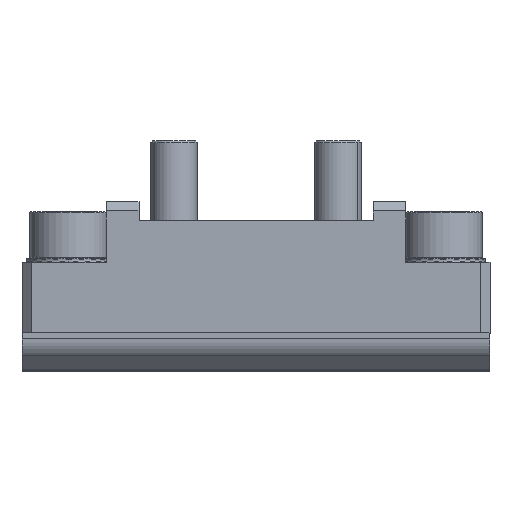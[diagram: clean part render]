
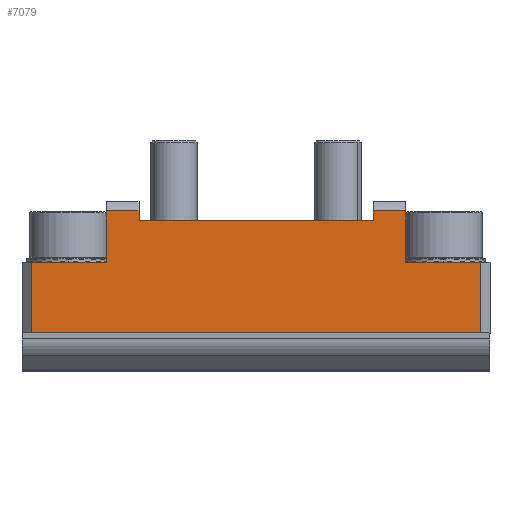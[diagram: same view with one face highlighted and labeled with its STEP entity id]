
A CAD part, top view. The second image highlights one B-rep face of the part: STEP entity #7079.
In plain terms, the highlighted planar face has unit normal (0, 0, 1).
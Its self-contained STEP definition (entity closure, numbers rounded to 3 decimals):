
#36 = DIRECTION ( 'NONE',  ( -1., 0., 0. ) ) ;
#64 = VERTEX_POINT ( 'NONE', #6094 ) ;
#97 = LINE ( 'NONE', #8309, #9051 ) ;
#229 = VERTEX_POINT ( 'NONE', #3022 ) ;
#303 = VECTOR ( 'NONE', #9408, 1000. ) ;
#398 = CARTESIAN_POINT ( 'NONE',  ( 16., 13., 27.5 ) ) ;
#475 = DIRECTION ( 'NONE',  ( 0., -1., 0. ) ) ;
#804 = VERTEX_POINT ( 'NONE', #3929 ) ;
#880 = VECTOR ( 'NONE', #4453, 1000. ) ;
#1556 = ORIENTED_EDGE ( 'NONE', *, *, #10417, .T. ) ;
#1680 = CARTESIAN_POINT ( 'NONE',  ( 24., 0., 27.5 ) ) ;
#1688 = CARTESIAN_POINT ( 'NONE',  ( -25., 13., 27.5 ) ) ;
#1712 = DIRECTION ( 'NONE',  ( 0., 1., 0. ) ) ;
#1971 = VECTOR ( 'NONE', #5743, 1000. ) ;
#1990 = VERTEX_POINT ( 'NONE', #8188 ) ;
#2147 = LINE ( 'NONE', #7790, #4460 ) ;
#2432 = EDGE_CURVE ( 'NONE', #8175, #4464, #2147, .T. ) ;
#2502 = VERTEX_POINT ( 'NONE', #10494 ) ;
#2598 = LINE ( 'NONE', #4221, #303 ) ;
#2604 = CARTESIAN_POINT ( 'NONE',  ( -24., 0., 27.5 ) ) ;
#2625 = LINE ( 'NONE', #3566, #880 ) ;
#2731 = EDGE_CURVE ( 'NONE', #7617, #2502, #97, .T. ) ;
#2790 = VECTOR ( 'NONE', #10947, 1000. ) ;
#2920 = ORIENTED_EDGE ( 'NONE', *, *, #7767, .T. ) ;
#2990 = CARTESIAN_POINT ( 'NONE',  ( -25., 0., 27.5 ) ) ;
#3022 = CARTESIAN_POINT ( 'NONE',  ( 12.5, 13., 27.5 ) ) ;
#3050 = LINE ( 'NONE', #4013, #2790 ) ;
#3078 = ORIENTED_EDGE ( 'NONE', *, *, #8546, .F. ) ;
#3177 = ORIENTED_EDGE ( 'NONE', *, *, #6664, .F. ) ;
#3252 = VERTEX_POINT ( 'NONE', #398 ) ;
#3487 = CARTESIAN_POINT ( 'NONE',  ( 24., 7.5, 27.5 ) ) ;
#3566 = CARTESIAN_POINT ( 'NONE',  ( -25., 0., 27.5 ) ) ;
#3682 = CARTESIAN_POINT ( 'NONE',  ( 12.5, 14., 27.5 ) ) ;
#3739 = VECTOR ( 'NONE', #10846, 1000. ) ;
#3855 = PLANE ( 'NONE',  #9130 ) ;
#3870 = LINE ( 'NONE', #8995, #10530 ) ;
#3929 = CARTESIAN_POINT ( 'NONE',  ( 12.5, 12., 27.5 ) ) ;
#3992 = LINE ( 'NONE', #3682, #6880 ) ;
#4013 = CARTESIAN_POINT ( 'NONE',  ( -12.5, 12., 27.5 ) ) ;
#4221 = CARTESIAN_POINT ( 'NONE',  ( -25., 7.5, 27.5 ) ) ;
#4362 = CARTESIAN_POINT ( 'NONE',  ( 12.5, 12., 27.5 ) ) ;
#4453 = DIRECTION ( 'NONE',  ( 1., 0., 0. ) ) ;
#4460 = VECTOR ( 'NONE', #1712, 1000. ) ;
#4464 = VERTEX_POINT ( 'NONE', #3487 ) ;
#4466 = EDGE_CURVE ( 'NONE', #804, #1990, #7694, .T. ) ;
#4577 = EDGE_CURVE ( 'NONE', #229, #804, #3992, .T. ) ;
#4640 = DIRECTION ( 'NONE',  ( 0., -1., 0. ) ) ;
#4835 = DIRECTION ( 'NONE',  ( 0., 1., 0. ) ) ;
#4876 = CARTESIAN_POINT ( 'NONE',  ( -25., 13., 27.5 ) ) ;
#4983 = CARTESIAN_POINT ( 'NONE',  ( 16., 7.5, 27.5 ) ) ;
#5509 = ORIENTED_EDGE ( 'NONE', *, *, #4577, .T. ) ;
#5657 = ORIENTED_EDGE ( 'NONE', *, *, #2432, .T. ) ;
#5743 = DIRECTION ( 'NONE',  ( -1., 0., 0. ) ) ;
#6003 = DIRECTION ( 'NONE',  ( -1., 0., 0. ) ) ;
#6055 = LINE ( 'NONE', #9918, #3739 ) ;
#6094 = CARTESIAN_POINT ( 'NONE',  ( -12.5, 13., 27.5 ) ) ;
#6664 = EDGE_CURVE ( 'NONE', #8637, #4464, #6055, .T. ) ;
#6736 = LINE ( 'NONE', #1688, #8762 ) ;
#6880 = VECTOR ( 'NONE', #8881, 1000. ) ;
#6892 = EDGE_CURVE ( 'NONE', #64, #2502, #6736, .T. ) ;
#7079 = ADVANCED_FACE ( 'NONE', ( #11176 ), #3855, .T. ) ;
#7154 = ORIENTED_EDGE ( 'NONE', *, *, #11012, .T. ) ;
#7617 = VERTEX_POINT ( 'NONE', #10610 ) ;
#7694 = LINE ( 'NONE', #4362, #9695 ) ;
#7767 = EDGE_CURVE ( 'NONE', #8238, #8175, #2625, .T. ) ;
#7790 = CARTESIAN_POINT ( 'NONE',  ( 24., 0., 27.5 ) ) ;
#8124 = ORIENTED_EDGE ( 'NONE', *, *, #6892, .T. ) ;
#8175 = VERTEX_POINT ( 'NONE', #1680 ) ;
#8188 = CARTESIAN_POINT ( 'NONE',  ( -12.5, 12., 27.5 ) ) ;
#8238 = VERTEX_POINT ( 'NONE', #2604 ) ;
#8309 = CARTESIAN_POINT ( 'NONE',  ( -16., 7.5, 27.5 ) ) ;
#8310 = CARTESIAN_POINT ( 'NONE',  ( 16., 14., 27.5 ) ) ;
#8396 = ORIENTED_EDGE ( 'NONE', *, *, #4466, .T. ) ;
#8546 = EDGE_CURVE ( 'NONE', #3252, #8637, #8863, .T. ) ;
#8637 = VERTEX_POINT ( 'NONE', #4983 ) ;
#8700 = EDGE_CURVE ( 'NONE', #11208, #7617, #2598, .T. ) ;
#8762 = VECTOR ( 'NONE', #6003, 1000. ) ;
#8863 = LINE ( 'NONE', #8310, #10875 ) ;
#8881 = DIRECTION ( 'NONE',  ( 0., -1., 0. ) ) ;
#8995 = CARTESIAN_POINT ( 'NONE',  ( -24., 0., 27.5 ) ) ;
#9025 = DIRECTION ( 'NONE',  ( 0., 0., 1. ) ) ;
#9051 = VECTOR ( 'NONE', #4835, 1000. ) ;
#9130 = AXIS2_PLACEMENT_3D ( 'NONE', #2990, #9025, #9906 ) ;
#9408 = DIRECTION ( 'NONE',  ( 1., 0., 0. ) ) ;
#9496 = CARTESIAN_POINT ( 'NONE',  ( -24., 7.5, 27.5 ) ) ;
#9695 = VECTOR ( 'NONE', #36, 1000. ) ;
#9906 = DIRECTION ( 'NONE',  ( 1., 0., 0. ) ) ;
#9918 = CARTESIAN_POINT ( 'NONE',  ( 16., 7.5, 27.5 ) ) ;
#9946 = EDGE_LOOP ( 'NONE', ( #2920, #5657, #3177, #3078, #7154, #5509, #8396, #1556, #8124, #10114, #9974, #11096 ) ) ;
#9974 = ORIENTED_EDGE ( 'NONE', *, *, #8700, .F. ) ;
#10114 = ORIENTED_EDGE ( 'NONE', *, *, #2731, .F. ) ;
#10286 = EDGE_CURVE ( 'NONE', #11208, #8238, #3870, .T. ) ;
#10417 = EDGE_CURVE ( 'NONE', #1990, #64, #3050, .T. ) ;
#10494 = CARTESIAN_POINT ( 'NONE',  ( -16., 13., 27.5 ) ) ;
#10530 = VECTOR ( 'NONE', #4640, 1000. ) ;
#10610 = CARTESIAN_POINT ( 'NONE',  ( -16., 7.5, 27.5 ) ) ;
#10846 = DIRECTION ( 'NONE',  ( 1., 0., 0. ) ) ;
#10875 = VECTOR ( 'NONE', #475, 1000. ) ;
#10947 = DIRECTION ( 'NONE',  ( 0., 1., 0. ) ) ;
#11012 = EDGE_CURVE ( 'NONE', #3252, #229, #11175, .T. ) ;
#11096 = ORIENTED_EDGE ( 'NONE', *, *, #10286, .T. ) ;
#11175 = LINE ( 'NONE', #4876, #1971 ) ;
#11176 = FACE_OUTER_BOUND ( 'NONE', #9946, .T. ) ;
#11208 = VERTEX_POINT ( 'NONE', #9496 ) ;
